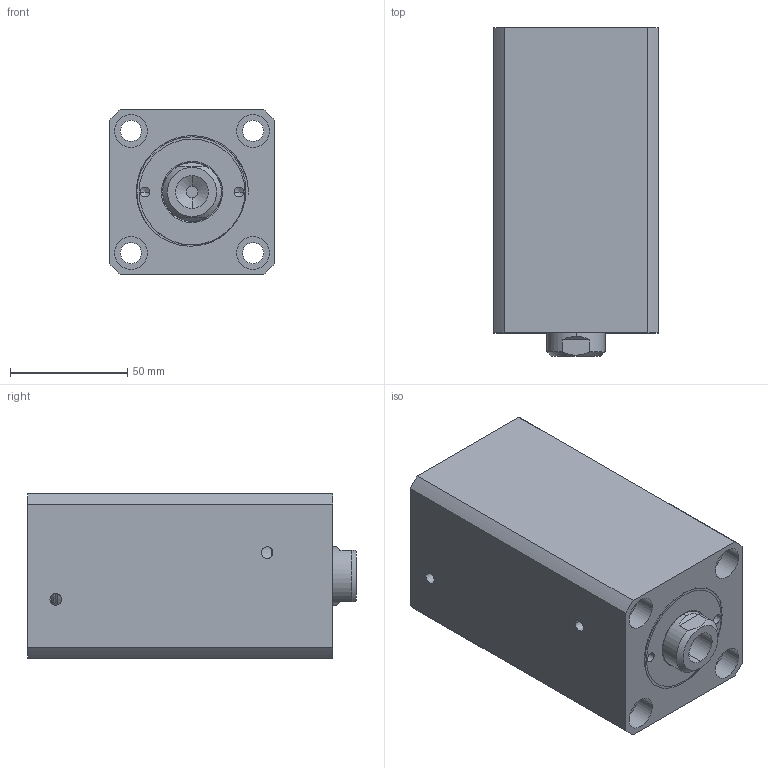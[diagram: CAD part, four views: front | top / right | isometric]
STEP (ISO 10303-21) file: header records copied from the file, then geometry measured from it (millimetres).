
FILE_DESCRIPTION (( 'STEP AP214' ), '1' );
FILE_NAME ('chtb-sdmb40x75n_asm.STEP', '2018-06-07T02:29:08', ( 'Windows' ), ( 'Microsoft' ), 'SwSTEP 2.0', 'SolidWorks 2015', '' );
FILE_SCHEMA (( 'AUTOMOTIVE_DESIGN' ));
Length unit declared in the file: millimetre
Products named in the file (4): CHTB-SD40QG; CHTB-SDMB40X75NBT; CHTB-SD40X75NHSG; chtb-sdmb40x75n_asm
Assembly tree (3 placements, depth 2):
  chtb-sdmb40x75n_asm
    CHTB-SD40X75NHSG
    CHTB-SDMB40X75NBT
    CHTB-SD40QG
Bounding box: 70 x 140 x 70 mm (x, y, z)
Volume: 526713.9 mm3; surface area: 105008.7 mm2
Topology: 3 solids, 3 shells, 155 faces, 407 edges, 270 vertices
Faces by surface type: cylinder 84, plane 34, torus 14, bspline 14, cone 9
Entity records: 10007 total; most frequent: CARTESIAN_POINT 6085, ORIENTED_EDGE 802, DIRECTION 758, EDGE_CURVE 401, AXIS2_PLACEMENT_3D 322, VERTEX_POINT 270, EDGE_LOOP 191, CIRCLE 175
